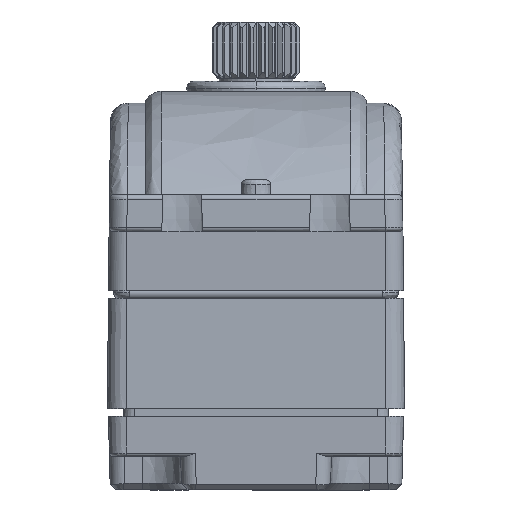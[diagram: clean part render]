
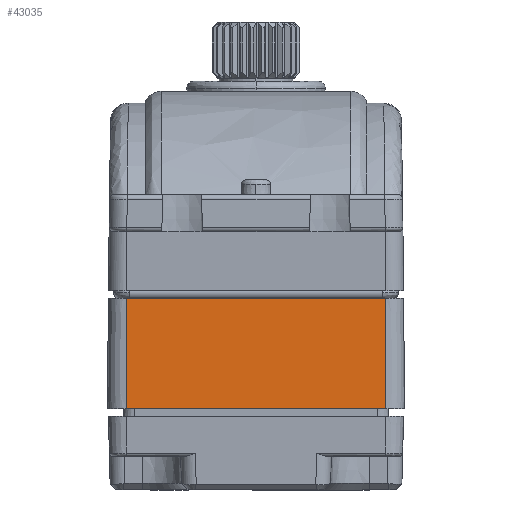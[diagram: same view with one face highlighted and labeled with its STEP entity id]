
A CAD part, left-side view. The second image highlights one B-rep face of the part: STEP entity #43035.
In plain terms, the highlighted planar face has unit normal (-1, 0, 0.009).
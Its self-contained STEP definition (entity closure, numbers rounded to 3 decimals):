
#455 = DIRECTION ( 'NONE',  ( 0.009, 0., 1. ) ) ;
#680 = EDGE_CURVE ( 'NONE', #32789, #38300, #21110, .T. ) ;
#1485 = CARTESIAN_POINT ( 'NONE',  ( -20.25, -8.8, 1.15 ) ) ;
#5316 = CARTESIAN_POINT ( 'NONE',  ( -20.25, 1.439, 1.15 ) ) ;
#6233 = VECTOR ( 'NONE', #18629, 1000. ) ;
#7189 = FACE_OUTER_BOUND ( 'NONE', #19510, .T. ) ;
#10061 = LINE ( 'NONE', #27939, #21215 ) ;
#10879 = EDGE_CURVE ( 'NONE', #42233, #38300, #22655, .T. ) ;
#11672 = LINE ( 'NONE', #15360, #16469 ) ;
#11817 = CARTESIAN_POINT ( 'NONE',  ( -20.315, 0., -6.349 ) ) ;
#13484 = CARTESIAN_POINT ( 'NONE',  ( -20.315, -8.8, -6.349 ) ) ;
#15360 = CARTESIAN_POINT ( 'NONE',  ( -4374.967, 8.8, -499000. ) ) ;
#15517 = PLANE ( 'NONE',  #34682 ) ;
#16469 = VECTOR ( 'NONE', #38994, 1000. ) ;
#17986 = ORIENTED_EDGE ( 'NONE', *, *, #28564, .F. ) ;
#18453 = ORIENTED_EDGE ( 'NONE', *, *, #680, .T. ) ;
#18629 = DIRECTION ( 'NONE',  ( 0., -1., 0. ) ) ;
#18845 = EDGE_CURVE ( 'NONE', #32789, #23023, #10061, .T. ) ;
#18892 = DIRECTION ( 'NONE',  ( 0.009, 0., 1. ) ) ;
#19510 = EDGE_LOOP ( 'NONE', ( #41522, #18453, #33026, #17986 ) ) ;
#21110 = LINE ( 'NONE', #13484, #26415 ) ;
#21215 = VECTOR ( 'NONE', #22721, 1000. ) ;
#22655 = LINE ( 'NONE', #5316, #6233 ) ;
#22721 = DIRECTION ( 'NONE',  ( 0., 1., 0. ) ) ;
#23023 = VERTEX_POINT ( 'NONE', #39794 ) ;
#23947 = CARTESIAN_POINT ( 'NONE',  ( -20.315, -8.8, -6.35 ) ) ;
#25887 = DIRECTION ( 'NONE',  ( -1., 0., 0.009 ) ) ;
#26415 = VECTOR ( 'NONE', #455, 1000. ) ;
#27015 = CARTESIAN_POINT ( 'NONE',  ( -20.25, 8.8, 1.15 ) ) ;
#27939 = CARTESIAN_POINT ( 'NONE',  ( -20.315, 35.626, -6.35 ) ) ;
#28564 = EDGE_CURVE ( 'NONE', #23023, #42233, #11672, .T. ) ;
#32789 = VERTEX_POINT ( 'NONE', #23947 ) ;
#33026 = ORIENTED_EDGE ( 'NONE', *, *, #10879, .F. ) ;
#34682 = AXIS2_PLACEMENT_3D ( 'NONE', #11817, #25887, #18892 ) ;
#38300 = VERTEX_POINT ( 'NONE', #1485 ) ;
#38994 = DIRECTION ( 'NONE',  ( 0.009, 0., 1. ) ) ;
#39794 = CARTESIAN_POINT ( 'NONE',  ( -20.315, 8.8, -6.35 ) ) ;
#41522 = ORIENTED_EDGE ( 'NONE', *, *, #18845, .F. ) ;
#42233 = VERTEX_POINT ( 'NONE', #27015 ) ;
#43035 = ADVANCED_FACE ( 'NONE', ( #7189 ), #15517, .T. ) ;
